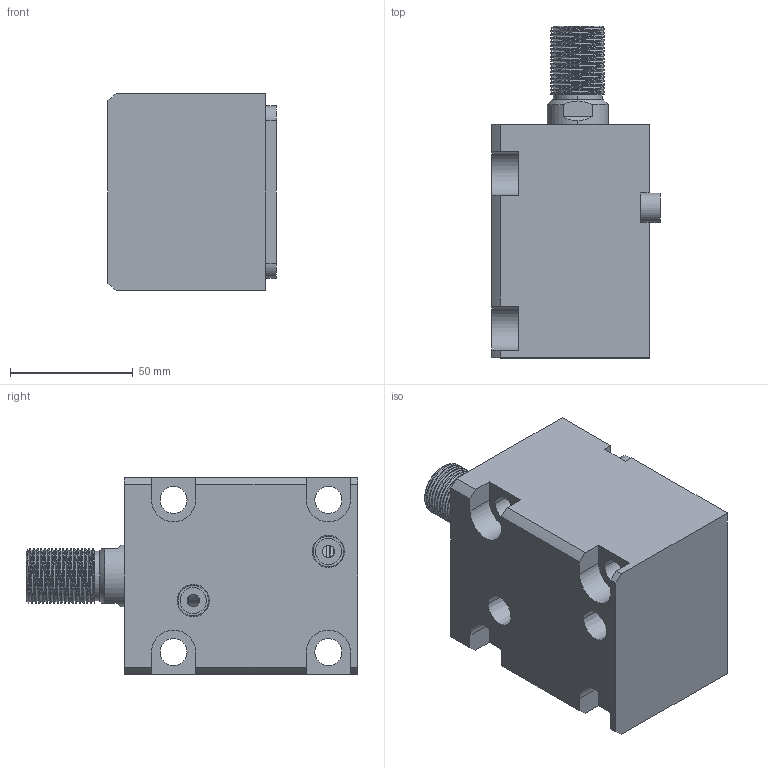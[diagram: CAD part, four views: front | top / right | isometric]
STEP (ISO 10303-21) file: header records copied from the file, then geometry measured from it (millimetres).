
FILE_DESCRIPTION (( 'STEP AP214' ), '1' );
FILE_NAME ('chtb-la40x40w_asm.STEP', '2018-06-04T00:44:35', ( 'Windows' ), ( 'Microsoft' ), 'SwSTEP 2.0', 'SolidWorks 2015', '' );
FILE_SCHEMA (( 'AUTOMOTIVE_DESIGN' ));
Length unit declared in the file: millimetre
Products named in the file (5): CHTB-LA40PJ; chtb-la40x40w_asm; CHTB-SD40X40WHSG; CHTB-SD40QG; CHTB-LA40X40NBT
Assembly tree (4 placements, depth 2):
  chtb-la40x40w_asm
    CHTB-LA40PJ
    CHTB-LA40X40NBT
    CHTB-SD40QG
    CHTB-SD40X40WHSG
Bounding box: 68.5 x 135 x 80 mm (x, y, z)
Volume: 434163.7 mm3; surface area: 86610.1 mm2
Topology: 4 solids, 5 shells, 205 faces, 559 edges, 373 vertices
Faces by surface type: cylinder 111, plane 52, bspline 16, cone 14, torus 12
Entity records: 13775 total; most frequent: CARTESIAN_POINT 8706, ORIENTED_EDGE 1106, DIRECTION 926, EDGE_CURVE 553, VERTEX_POINT 373, AXIS2_PLACEMENT_3D 363, EDGE_LOOP 234, FACE_OUTER_BOUND 205
